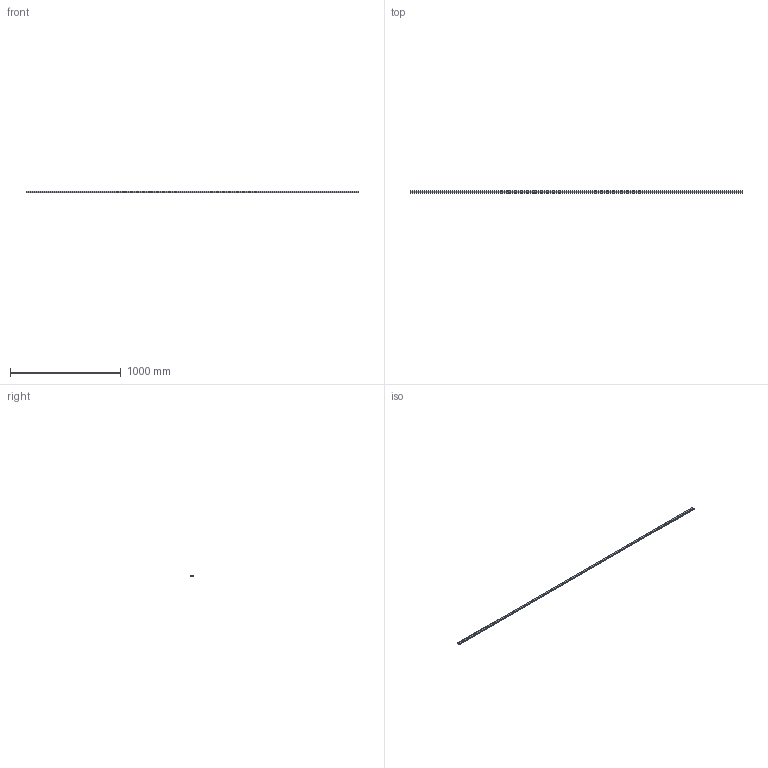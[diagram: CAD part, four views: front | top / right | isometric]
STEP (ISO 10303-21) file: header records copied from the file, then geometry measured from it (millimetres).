
FILE_DESCRIPTION (( 'STEP AP214' ), '1' );
FILE_NAME ('FABER - FGRR 3x20x12.step', '2017-04-06T07:46:01', ( '' ), ( '' ), 'SwSTEP 2.0', 'SolidWorks 2016', '' );
FILE_SCHEMA (( 'AUTOMOTIVE_DESIGN' ));
Length unit declared in the file: millimetre
Products named in the file (1): FABER - FGRR 3x20x12
Bounding box: 3000 x 19.22 x 12 mm (x, y, z)
Volume: 283264.2 mm3; surface area: 270894 mm2
Topology: 1 solids, 1 shells, 38 faces, 108 edges, 72 vertices
Faces by surface type: cylinder 20, plane 18
Entity records: 1286 total; most frequent: DIRECTION 226, CARTESIAN_POINT 219, ORIENTED_EDGE 216, EDGE_CURVE 108, AXIS2_PLACEMENT_3D 79, VERTEX_POINT 72, LINE 68, VECTOR 68
